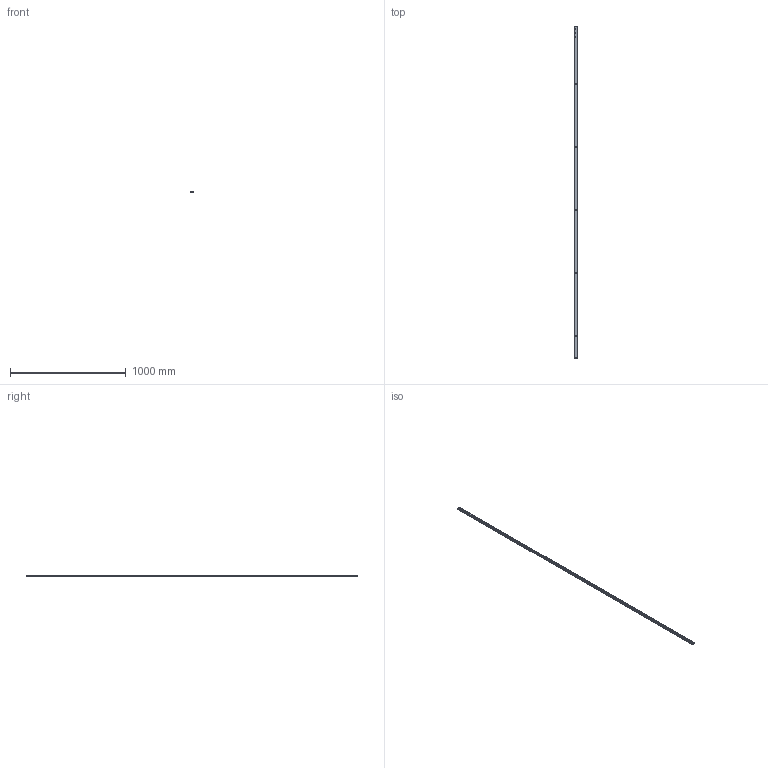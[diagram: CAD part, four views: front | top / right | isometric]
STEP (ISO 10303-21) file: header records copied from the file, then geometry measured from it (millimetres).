
FILE_DESCRIPTION (( 'STEP AP214' ), '1' );
FILE_NAME ('TPL-W-032-U.STEP', '2024-07-05T04:45:35', ( '' ), ( '' ), 'SwSTEP 2.0', 'SolidWorks 2023', '' );
FILE_SCHEMA (( 'AUTOMOTIVE_DESIGN' ));
Length unit declared in the file: millimetre
Products named in the file (4): Copy of LKC-544 Bolt 8mm square stainless steel TPLGen2^TPL-W-032 Rod + cover + bolt orientation A; TPL-W-032-U; Copy of LKC-531-A Rod TPLGen2 machined bolt end^TPL-W-032 Rod + cover + bolt orientation A_LKC-531-A-M003; COV-112-B Cover B suit TPLGen2 standard range_2870mm
Assembly tree (3 placements, depth 2):
  TPL-W-032-U
    Copy of LKC-544 Bolt 8mm square stainless steel TPLGen2^TPL-W-032 Rod + cover + bolt orientation A
    Copy of LKC-531-A Rod TPLGen2 machined bolt end^TPL-W-032 Rod + cover + bolt orientation A_LKC-531-A-M003
    COV-112-B Cover B suit TPLGen2 standard range_2870mm
Bounding box: 27 x 2870 x 10.8 mm (x, y, z)
Volume: 469673.5 mm3; surface area: 386325.3 mm2
Topology: 3 solids, 3 shells, 152 faces, 470 edges, 312 vertices
Faces by surface type: plane 73, cylinder 55, cone 22, sphere 2
Entity records: 5712 total; most frequent: CARTESIAN_POINT 1368, ORIENTED_EDGE 940, DIRECTION 863, EDGE_CURVE 470, VERTEX_POINT 312, AXIS2_PLACEMENT_3D 311, VECTOR 241, LINE 241
